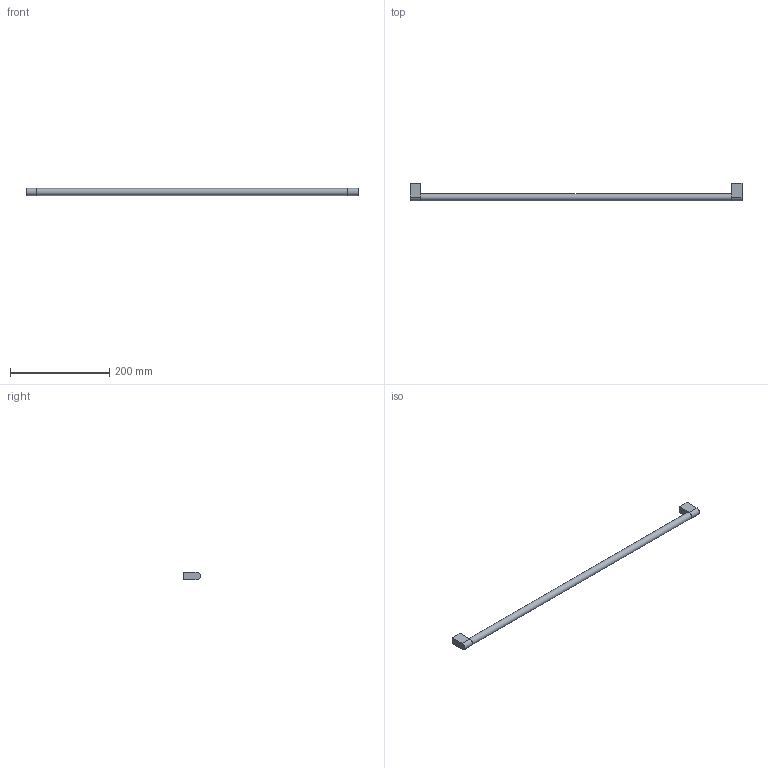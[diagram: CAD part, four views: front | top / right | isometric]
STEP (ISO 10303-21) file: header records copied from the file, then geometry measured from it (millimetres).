
FILE_DESCRIPTION( ( 'STEP AP214' ), '1' );
FILE_NAME( 'C:/Shahbaz/Shahbaz D&D/Task/Working-ON/Varna/QC/9332356.stp', '2023-08-29T07:01:05', ( '' ), ( '' ), ' ', 'PARTsolutions', ' ' );
FILE_SCHEMA( ( 'AUTOMOTIVE_DESIGN { 1 0 10303 214 1 1 1 1 }' ) );
Length unit declared in the file: millimetre
Products named in the file (1): _9332356
Bounding box: 670 x 35.36 x 14.64 mm (x, y, z)
Volume: 119998 mm3; surface area: 34296.1 mm2
Topology: 1 solids, 1 shells, 17 faces, 33 edges, 22 vertices
Faces by surface type: plane 12, cylinder 5
Full cylindrical faces by diameter (mm): 6.2 x2, 14.2 x1
Entity records: 574 total; most frequent: DIRECTION 76, CARTESIAN_POINT 70, ORIENTED_EDGE 60, EDGE_CURVE 30, AXIS2_PLACEMENT_3D 28, EDGE_LOOP 24, VERTEX_POINT 22, FACE_OUTER_BOUND 20
